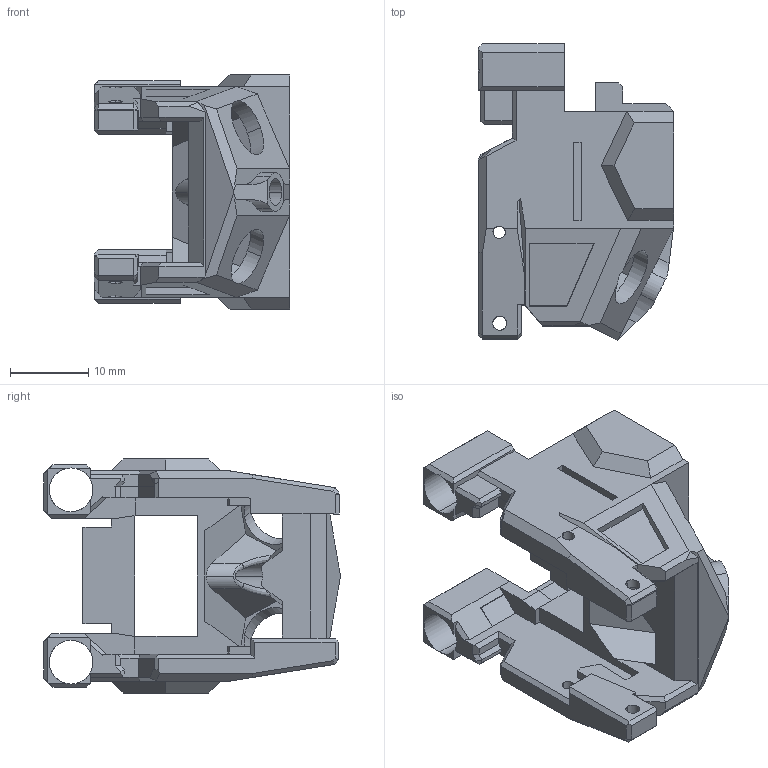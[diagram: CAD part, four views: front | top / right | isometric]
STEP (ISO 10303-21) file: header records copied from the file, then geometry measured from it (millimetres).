
FILE_DESCRIPTION (( 'STEP AP203' ), '1' );
FILE_NAME ('天线座（加墙）.STEP', '2025-08-19T16:59:33', ( '' ), ( '' ), 'SwSTEP 2.0', 'SolidWorks 2025', '' );
FILE_SCHEMA (( 'CONFIG_CONTROL_DESIGN' ));
Length unit declared in the file: millimetre
Products named in the file (1): 天线座（加墙）
Bounding box: 25 x 38 x 30 mm (x, y, z)
Volume: 8191.3 mm3; surface area: 6451.5 mm2
Topology: 1 solids, 1 shells, 343 faces, 971 edges, 628 vertices
Faces by surface type: plane 298, cylinder 38, bspline 7
Entity records: 11591 total; most frequent: CARTESIAN_POINT 2728, ORIENTED_EDGE 1942, DIRECTION 1658, EDGE_CURVE 971, VECTOR 844, LINE 844, VERTEX_POINT 628, AXIS2_PLACEMENT_3D 407
